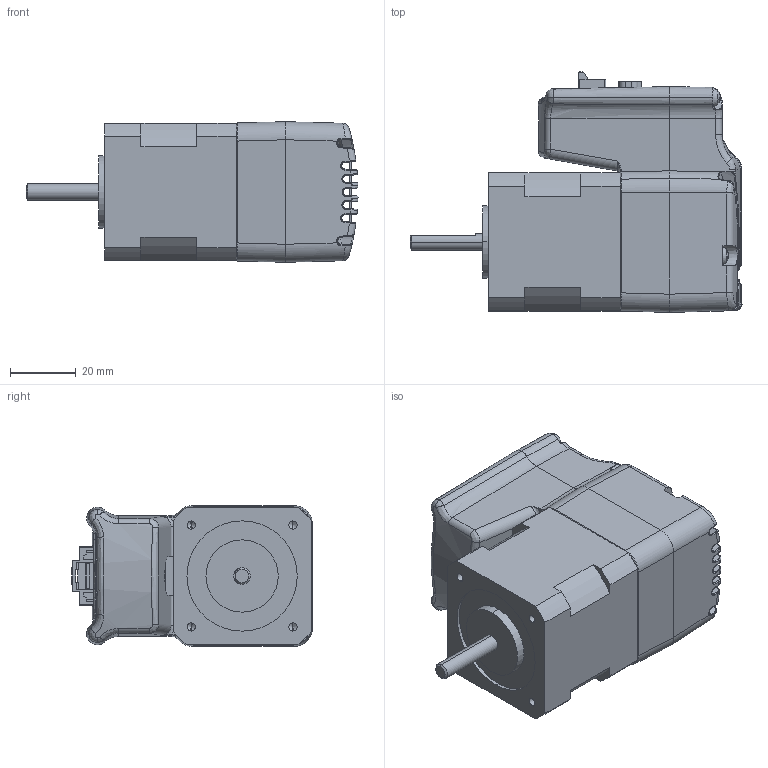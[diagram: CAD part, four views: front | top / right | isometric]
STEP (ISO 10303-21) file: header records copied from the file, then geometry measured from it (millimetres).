
FILE_DESCRIPTION (( 'STEP AP203' ), '1' );
FILE_NAME ('P26-MO-042-02-R00.STEP', '2015-04-15T06:33:14', ( '' ), ( '' ), 'SwSTEP 2.0', 'SolidWorks 2013', '' );
FILE_SCHEMA (( 'CONFIG_CONTROL_DESIGN' ));
Length unit declared in the file: millimetre
Products named in the file (20): ﾆﾞｽｺ ﾀﾔｷﾂ ｹ貎ﾄ ｼｳﾁ､ ｽｺﾀｧﾄ｡-1; M15-EC-042-05-R00; ﾆﾞｽｺ ﾀﾔｷﾂ ｹ貎ﾄ ｼｳﾁ､ ｽｺﾀｧﾄ｡-2; ﾀﾔﾃ箙ﾂ ﾁ｢ｼﾓ ﾄｿｳﾘﾅﾍ; P26-MO-042-02-R00; 蝶嬪纂-1; 瞪錳薄樓醴喀攪-1; 蝶嬪纂-2; 瞪錳薄樓醴喀攪-2; 匙飘况农 ID 钎矫 棺 惑怕 钎矫; 瞪錳薄樓醴喀攪-3; 烹脚加档 汲沥 胶困摹; 瞪錳薄樓醴喀攪-4; M16-EC-042-01-R00; round cross head screw_ks_KS 1023 RC - M3 x 20-N; 瞪錳薄樓醴喀攪-5; M15-EC-042-02-R00; M25-MO-042-02-R00(BM-42M-BT-01)_湀_; RS-232C 鱔褐醴喀攪; M26-EC-042-01-R00
Assembly tree (23 placements, depth 2):
  P26-MO-042-02-R00
    M16-EC-042-01-R00
    M15-EC-042-02-R00
    M26-EC-042-01-R00
    M15-EC-042-05-R00
    ﾀﾔﾃ箙ﾂ ﾁ｢ｼﾓ ﾄｿｳﾘﾅﾍ
    瞪錳薄樓醴喀攪-1
    瞪錳薄樓醴喀攪-2
    瞪錳薄樓醴喀攪-3
    瞪錳薄樓醴喀攪-4
    瞪錳薄樓醴喀攪-5
    RS-232C 鱔褐醴喀攪  x2
    ﾆﾞｽｺ ﾀﾔｷﾂ ｹ貎ﾄ ｼｳﾁ､ ｽｺﾀｧﾄ｡-1
    ﾆﾞｽｺ ﾀﾔｷﾂ ｹ貎ﾄ ｼｳﾁ､ ｽｺﾀｧﾄ｡-2
    蝶嬪纂-1
    蝶嬪纂-2
    匙飘况农 ID 钎矫 棺 惑怕 钎矫
    烹脚加档 汲沥 胶困摹
    round cross head screw_ks_KS 1023 RC - M3 x 20-N  x4
    M25-MO-042-02-R00(BM-42M-BT-01)_湀_
Bounding box: 101.09 x 73.3 x 42.8 mm (x, y, z)
Volume: 107576.8 mm3; surface area: 49360.2 mm2
Topology: 21 solids, 23 shells, 2290 faces, 5975 edges, 3739 vertices
Faces by surface type: plane 1151, cylinder 659, bspline 308, cone 88, torus 44, sphere 40
Entity records: 97189 total; most frequent: CARTESIAN_POINT 48517, ORIENTED_EDGE 10680, DIRECTION 7901, EDGE_CURVE 5359, VERTEX_POINT 3393, VECTOR 2897, LINE 2897, AXIS2_PLACEMENT_3D 2502
